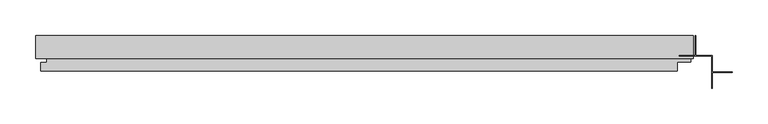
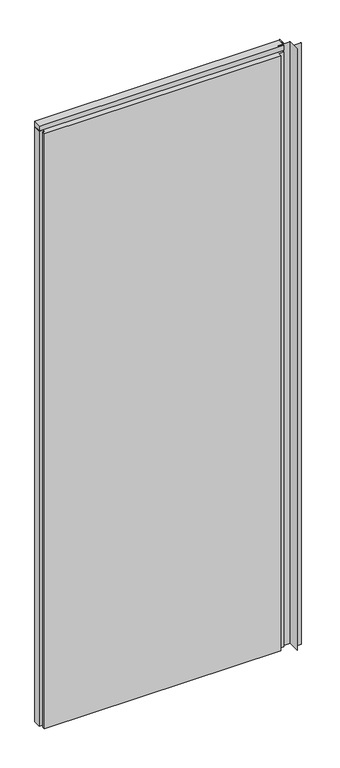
"""IFC4 building model written with IfcOpenShell, lengths in millimetres: plate geometry, Trimo_Qbiss Screen_Normal Panel-VERTICAL : HR - FB-F."""

import ifcopenshell
import ifcopenshell.guid

model = None  # the IFC model being written
_history = None  # IfcOwnerHistory: only IFC2X3 demands one
_inside = {}  # id of a spatial element -> (the spatial element, [elements in it])
_under = {}  # id of a project, library or spatial element -> (it, [spatial elements below it])
_declared = {}  # id of a project -> (the project, [libraries it declares])
_typed = {}  # id of a type object -> (the type object, [elements of that type])
_made_of = {}  # id of a material, layer set ... -> (it, [elements and type objects made of it])


def new_model(schema):
    """Start an empty IFC model of exactly this schema.

    Asked for "IFC4X3", IfcOpenShell would pick the latest addendum, in which some entities
    have other attributes; the version numbers below select the first issue.
    IFC2X3 requires an IfcOwnerHistory on every rooted entity: one is made here for all.
    """
    global model, _history
    if schema == "IFC4X3":
        model = ifcopenshell.file(schema_version=(4, 3, 0, 0))
    else:
        model = ifcopenshell.file(schema=schema)
    _inside.clear()
    _under.clear()
    _declared.clear()
    _typed.clear()
    _made_of.clear()
    _history = None
    if model.schema == "IFC2X3":
        org = make("IfcOrganization", Name="unknown")
        user = make(
            "IfcPersonAndOrganization",
            ThePerson=make("IfcPerson", FamilyName="unknown"),
            TheOrganization=org,
        )
        app = make(
            "IfcApplication",
            ApplicationDeveloper=org,
            Version="unknown",
            ApplicationFullName="unknown",
            ApplicationIdentifier="unknown",
        )
        _history = make(
            "IfcOwnerHistory",
            OwningUser=user,
            OwningApplication=app,
            ChangeAction="ADDED",
            CreationDate=0,
        )
    return model


def make(cls, **values):
    """One entity of the class cls with the attributes given. An attribute that is None is left unset."""
    return model.create_entity(
        cls, **{name: value for name, value in values.items() if value is not None}
    )


def rooted(cls, **values):
    """An entity with a GlobalId (a new one), such as an element, a storey or a relation."""
    return make(cls, GlobalId=ifcopenshell.guid.new(), OwnerHistory=_history, **values)


def si_unit(unit_type, name, prefix=None):
    """IfcSIUnit, for example si_unit("LENGTHUNIT", "METRE", prefix="MILLI")."""
    return make("IfcSIUnit", UnitType=unit_type, Prefix=prefix, Name=name)


def assignment(units):
    """IfcUnitAssignment: the units of a project."""
    return None if units is None else make("IfcUnitAssignment", Units=units)


def point(xyz):
    """IfcCartesianPoint."""
    return None if xyz is None else make("IfcCartesianPoint", Coordinates=xyz)


def direction(xyz):
    """IfcDirection."""
    return None if xyz is None else make("IfcDirection", DirectionRatios=xyz)


def frame(location, z_axis=None, x_axis=None):
    """IfcAxis2Placement3D, a coordinate frame: its origin and axes. An axis left out is left unset."""
    return make(
        "IfcAxis2Placement3D",
        Location=point(location),
        Axis=direction(z_axis),
        RefDirection=direction(x_axis),
    )


def origin():
    """The frame at (0, 0, 0) with its axes left unset."""
    return frame((0.0, 0.0, 0.0))


def place(relative_to, where):
    """IfcLocalPlacement: puts the frame where relative to a parent placement (None: the world)."""
    return make(
        "IfcLocalPlacement", PlacementRelTo=relative_to, RelativePlacement=where
    )


def context(
    kind, dimensions, precision=None, world=None, true_north=None, identifier=None
):
    """IfcGeometricRepresentationContext, for example the 3D "Model" context."""
    return make(
        "IfcGeometricRepresentationContext",
        ContextIdentifier=identifier,
        ContextType=kind,
        CoordinateSpaceDimension=dimensions,
        Precision=precision,
        WorldCoordinateSystem=world,
        TrueNorth=true_north,
    )


def project(units=None, contexts=None):
    """IfcProject with its units and contexts."""
    return rooted(
        "IfcProject",
        Name="project",
        RepresentationContexts=contexts,
        UnitsInContext=assignment(units),
    )


def spatial(cls, under=None, at=None, **own):
    """A site, building, storey or space (cls), placed at a placement, below another one or the project."""
    s = rooted(cls, ObjectPlacement=at, **own)
    if under is not None:
        _under.setdefault(under.id(), (under, []))[1].append(s)
    return s


def polyline(points):
    """IfcPolyline through the points."""
    return make("IfcPolyline", Points=[point(p) for p in points])


def outline(outer, holes=None, kind="AREA"):
    """IfcArbitraryClosedProfileDef: a profile drawn as a closed curve; with holes, ...WithVoids."""
    if holes is None:
        return make("IfcArbitraryClosedProfileDef", ProfileType=kind, OuterCurve=outer)
    return make(
        "IfcArbitraryProfileDefWithVoids",
        ProfileType=kind,
        OuterCurve=outer,
        InnerCurves=holes,
    )


def extrude(swept, where, along, depth):
    """IfcExtrudedAreaSolid: the profile swept, set in the frame where, extruded along a direction by depth."""
    return make(
        "IfcExtrudedAreaSolid",
        SweptArea=swept,
        Position=where,
        ExtrudedDirection=direction(along),
        Depth=depth,
    )


def shape(context_of_items, identifier, shape_type, items):
    """IfcShapeRepresentation: the items that make up one representation, for example the "Body"."""
    return make(
        "IfcShapeRepresentation",
        ContextOfItems=context_of_items,
        RepresentationIdentifier=identifier,
        RepresentationType=shape_type,
        Items=items,
    )


def source(mapping_origin, context_of_items, identifier, shape_type, items):
    """IfcRepresentationMap: a shape defined once, which mapped items show again and again."""
    return make(
        "IfcRepresentationMap",
        MappingOrigin=mapping_origin,
        MappedRepresentation=shape(context_of_items, identifier, shape_type, items),
    )


def transform(
    local_origin,
    x_axis=None,
    y_axis=None,
    z_axis=None,
    scale=None,
    scale2=None,
    scale3=None,
    uniform=True,
):
    """IfcCartesianTransformationOperator3D, or its non-uniform kind. x_axis, y_axis, z_axis: its Axis1, 2, 3."""
    if uniform:
        return make(
            "IfcCartesianTransformationOperator3D",
            Axis1=direction(x_axis),
            Axis2=direction(y_axis),
            LocalOrigin=point(local_origin),
            Scale=scale,
            Axis3=direction(z_axis),
        )
    return make(
        "IfcCartesianTransformationOperator3DnonUniform",
        Axis1=direction(x_axis),
        Axis2=direction(y_axis),
        LocalOrigin=point(local_origin),
        Scale=scale,
        Axis3=direction(z_axis),
        Scale2=scale2,
        Scale3=scale3,
    )


def mapped(mapping_source, mapping_target):
    """IfcMappedItem: shows the shape of a source again, moved by a transform."""
    return make(
        "IfcMappedItem", MappingSource=mapping_source, MappingTarget=mapping_target
    )


def made_of(thing, what):
    """Note that an element or type object is made of a material, layer set ...; save() writes the relation."""
    if what is not None:
        _made_of.setdefault(what.id(), (what, []))[1].append(thing)
    return thing


def element(
    cls,
    number,
    at=None,
    inside=None,
    cuts=None,
    type_object=None,
    material=None,
    context=None,
    identifier="Body",
    shape_type=None,
    held_by="IfcProductDefinitionShape",
    body=None,
    shapes=None,
    **own,
):
    """One element of the class cls, such as IfcWall. Its Tag is "e" and its number.

    at: its placement. inside: the storey or other place that contains it. cuts: it is an
    opening in that element (IfcRelVoidsElement). A single representation is given by context,
    identifier, shape_type and body (its items); several are given by shapes. held_by: the class
    of the entity that holds the representations. save() writes the other relations.
    """
    e = rooted(cls, Tag="e%d" % number, ObjectPlacement=at, **own)
    if body is not None:
        shapes = [shape(context, identifier, shape_type, body)]
    if shapes is not None:
        e.Representation = make(held_by, Representations=shapes)
    if inside is not None:
        _inside.setdefault(inside.id(), (inside, []))[1].append(e)
    if cuts is not None:
        rooted(
            "IfcRelVoidsElement", RelatingBuildingElement=cuts, RelatedOpeningElement=e
        )
    if type_object is not None:
        _typed.setdefault(type_object.id(), (type_object, []))[1].append(e)
    return made_of(e, material)


def aggregate(whole, parts):
    """IfcRelAggregates: a whole, such as a stair, and the parts it consists of."""
    return rooted("IfcRelAggregates", RelatingObject=whole, RelatedObjects=parts)


def save(model, path):
    """Write the relations noted so far, then the file.

    IfcRelAggregates (storeys below a building ...), IfcRelContainedInSpatialStructure (elements
    in a storey), IfcRelDefinesByType, IfcRelAssociatesMaterial and IfcRelDeclares: one each for
    every whole, place, type object, material and project.
    """
    for whole, parts in _under.values():
        aggregate(whole, parts)
    for where, things in _inside.values():
        rooted(
            "IfcRelContainedInSpatialStructure",
            RelatedElements=things,
            RelatingStructure=where,
        )
    for kind, things in _typed.values():
        rooted("IfcRelDefinesByType", RelatedObjects=things, RelatingType=kind)
    for what, things in _made_of.values():
        rooted("IfcRelAssociatesMaterial", RelatedObjects=things, RelatingMaterial=what)
    for by, libraries in _declared.values():
        rooted("IfcRelDeclares", RelatingContext=by, RelatedDefinitions=libraries)
    model.write(path)


def plate_1cdea535(model_context):
    return source(origin(), model_context, "Body", "SweptSolid", [
        extrude(outline(polyline([(496.0, 97.0), (477.0, 97.0), (477.0, 126.0), (496.0, 126.0), (496.0, 97.0)])), frame((0.0, 0.0, 12.5), z_axis=(0.0, 0.0, 1.0), x_axis=(1.0, 0.0, 0.0)), (0.0, 0.0, 1.0), 2375.0),
        extrude(outline(polyline([(-425.0, 93.9), (-425.0, 126.0), (496.0, 126.0), (496.0, 93.9), (-425.0, 93.9)])), frame((0.0, 0.0, 2390.5), z_axis=(0.0, 0.0, 1.0), x_axis=(1.0, 0.0, 0.0)), (0.0, 0.0, 1.0), 19.0),
        extrude(outline(polyline([(474.0, 97.0), (492.5, 97.0), (492.5, 89.0), (474.0, 89.0), (474.0, 76.0), (-418.0, 76.0), (-418.0, 88.0), (-409.5, 88.0), (-409.5, 98.0), (-425.0, 98.0), (-425.0, 126.0), (474.0, 126.0), (474.0, 97.0)])), frame((0.0, 0.0, 12.5), z_axis=(0.0, 0.0, 1.0), x_axis=(1.0, 0.0, 0.0)), (0.0, 0.0, 1.0), 2375.0),
        extrude(outline(polyline([(499.0, 126.0), (499.8, 126.0), (499.8, 97.8), (522.8, 97.8), (522.8, 74.8), (551.0, 74.8), (551.0, 74.0), (522.8, 74.0), (522.8, 52.0), (522.0, 52.0), (522.0, 97.0), (477.0, 97.0), (477.0, 97.8), (499.0, 97.8), (499.0, 126.0)])), frame((0.0, 0.0, 12.5), z_axis=(0.0, 0.0, 1.0), x_axis=(1.0, 0.0, 0.0)), (0.0, 0.0, 1.0), 2400.0),
    ])


if __name__ == "__main__":
    model = new_model("IFC4")
    model_context = context("Model", 3, world=origin())
    ifc_project = project(units=[si_unit("LENGTHUNIT", "METRE", prefix="MILLI")], contexts=[model_context])
    site = spatial("IfcSite", under=ifc_project)
    building = spatial("IfcBuilding", under=site)
    placement = place(None, origin())
    plate_shape = plate_1cdea535(model_context)
    element("IfcPlate", 1, ObjectType="Trimo_Qbiss Screen_Normal Panel-VERTICAL : HR - FB-F", at=placement, inside=building, context=model_context, shape_type="MappedRepresentation", body=[
        mapped(plate_shape, transform((0.0, 0.0, 0.0), x_axis=(1.0, 0.0, 0.0), y_axis=(0.0, 1.0, 0.0), z_axis=(0.0, 0.0, 1.0))),
    ])
    save(model, "model.ifc")
